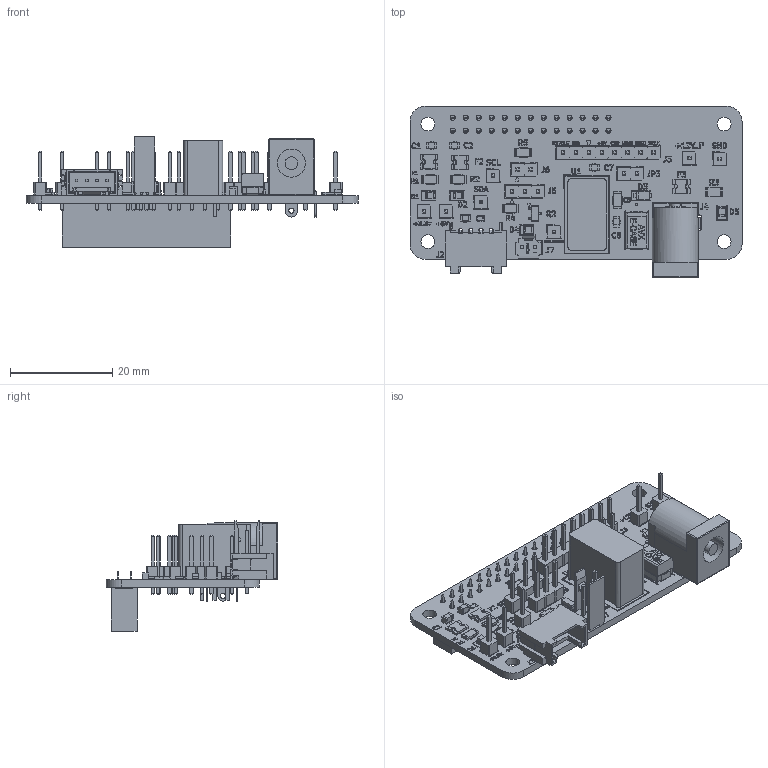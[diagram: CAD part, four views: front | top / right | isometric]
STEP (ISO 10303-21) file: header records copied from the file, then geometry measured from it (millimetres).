
FILE_DESCRIPTION(('KiCad electronic assembly'),'2;1');
FILE_NAME('RIVAREL_DVIL_HAT_04_28_mod.step','2025-05-05T14:58:35',( 'Pcbnew'),('Kicad'),'Open CASCADE STEP processor 7.8', 'KiCad to STEP converter','Unknown');
FILE_SCHEMA(('AUTOMOTIVE_DESIGN { 1 0 10303 214 1 1 1 1 }'));
Length unit declared in the file: millimetre
Products named in the file (25): RIVAREL_DVIL_HAT_04_28_mod 1; R_1206_3216Metric; Embase_AMPMODU_HE14_Droite_2; PinHeader_1x01_P2.54mm_Vertical; C_0805_2012Metric; PinHeader_1x02_P2.54mm_Vertical; Fiche_alimentation_DC; Polyswitch_MICROSMD110F-2; LED_0805_2012Metric; Grove_femelle_angle_droit; 114020163_114020163; SOT-23; Nexperia_CFP3_SOD-123W; RIVAREL_DVIL_HAT_04_28_mod 1.23.1; PinHeader_1x08_P2.54mm_Vertical; PinHeader_1x03_P2.54mm_Vertical; TSR_2-2450N; CASE-00; ½¦-00; PIN-00; C_1206_3216Metric; Capacitor_AVX_E_CASE_2917; PinSocket_2x13_P2.54mm_Vertical; RIVAREL_DVIL_HAT_04_28_mod_silkscreen; RIVAREL_DVIL_HAT_04_28_mod_PCB
Assembly tree (46 placements, depth 3):
  RIVAREL_DVIL_HAT_04_28_mod 1
    R_1206_3216Metric  x5
    Embase_AMPMODU_HE14_Droite_2
    PinHeader_1x01_P2.54mm_Vertical  x7
    C_0805_2012Metric  x5
    PinHeader_1x02_P2.54mm_Vertical  x2
    Fiche_alimentation_DC
    Polyswitch_MICROSMD110F-2  x3
    LED_0805_2012Metric  x4
    Grove_femelle_angle_droit
      114020163_114020163
    SOT-23
    Nexperia_CFP3_SOD-123W
      RIVAREL_DVIL_HAT_04_28_mod 1.23.1
    PinHeader_1x08_P2.54mm_Vertical
    PinHeader_1x03_P2.54mm_Vertical
    TSR_2-2450N
      CASE-00
      ½¦-00
      PIN-00  x3
    C_1206_3216Metric
    Capacitor_AVX_E_CASE_2917
    PinSocket_2x13_P2.54mm_Vertical
    RIVAREL_DVIL_HAT_04_28_mod_silkscreen
    RIVAREL_DVIL_HAT_04_28_mod_PCB
Bounding box: 65 x 33.59 x 21.58 mm (x, y, z)
Volume: 6495.6 mm3; surface area: 11055 mm2
Topology: 55 solids, 335 shells, 3085 faces, 11562 edges, 8994 vertices
Faces by surface type: plane 2606, cylinder 376, bspline 91, sphere 12
Full cylindrical faces by diameter (mm): 0.8 x4, 1 x50, 1.4 x3, 2.7 x4
Entity records: 121258 total; most frequent: CARTESIAN_POINT 22495, DIRECTION 16108, ORIENTED_EDGE 15331, EDGE_CURVE 9855, LINE 8060, VECTOR 8060, VERTEX_POINT 7896, AXIS2_PLACEMENT_3D 4024
